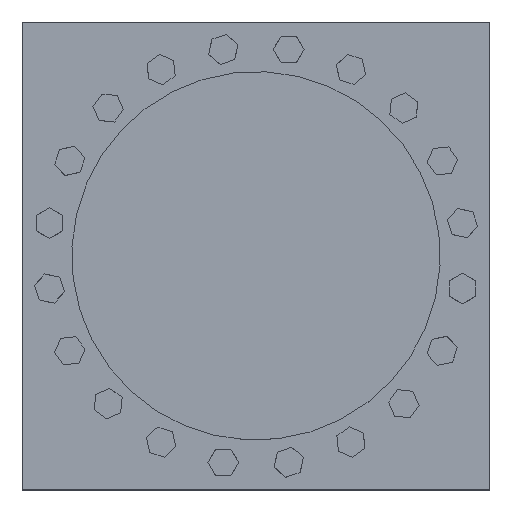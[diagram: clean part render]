
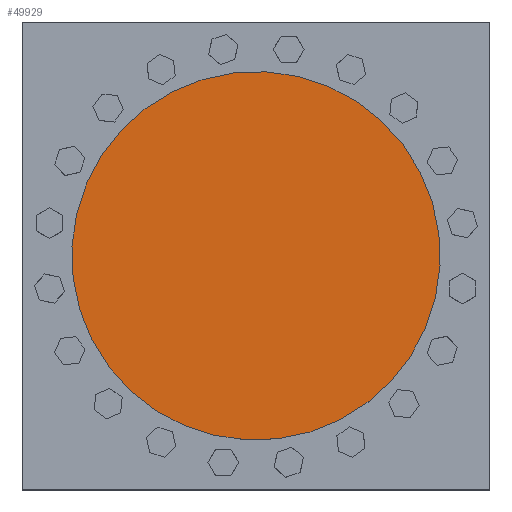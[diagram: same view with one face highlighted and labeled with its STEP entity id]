
A CAD part, top view. The second image highlights one B-rep face of the part: STEP entity #49929.
In plain terms, the highlighted planar face has unit normal (0, 0, 1).
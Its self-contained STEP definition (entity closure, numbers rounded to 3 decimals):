
#7621=PLANE('',#53442);
#10430=FACE_OUTER_BOUND('',#13851,.T.);
#13851=EDGE_LOOP('',(#32414));
#18438=CIRCLE('',#53440,13.);
#21113=VERTEX_POINT('',#73487);
#25678=EDGE_CURVE('',#21113,#21113,#18438,.T.);
#32414=ORIENTED_EDGE('',*,*,#25678,.T.);
#49929=ADVANCED_FACE('',(#10430),#7621,.T.);
#53440=AXIS2_PLACEMENT_3D('',#73488,#59366,#59367);
#53442=AXIS2_PLACEMENT_3D('',#73490,#59370,#59371);
#59366=DIRECTION('center_axis',(0.,0.,
1.));
#59367=DIRECTION('ref_axis',(-0.975,0.224,0.));
#59370=DIRECTION('center_axis',(0.,0.,
1.));
#59371=DIRECTION('ref_axis',(-0.975,0.224,0.));
#73487=CARTESIAN_POINT('',(12.669,-2.916,12.));
#73488=CARTESIAN_POINT('Origin',(0.,0.,12.));
#73490=CARTESIAN_POINT('Origin',(0.,0.,12.));
